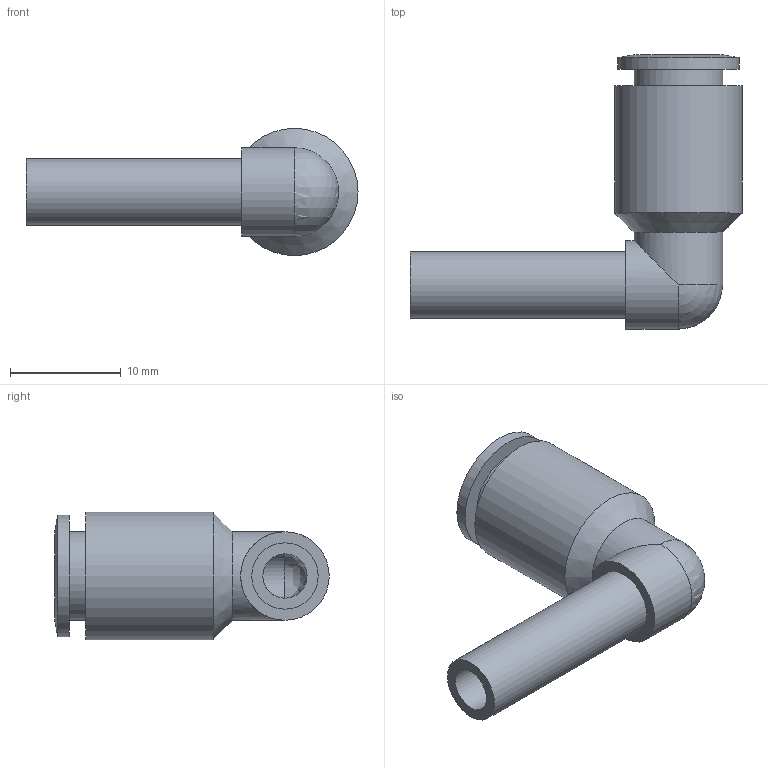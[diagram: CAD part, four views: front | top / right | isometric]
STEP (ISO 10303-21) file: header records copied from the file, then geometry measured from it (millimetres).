
FILE_DESCRIPTION((''),'2;1');
FILE_NAME('C:\Documents and Settings\rivolro1\Documenti\copia di Raccordi\PLASTICA\T04XXL0\T0406L0.stp','2007-10-30T15:45:45',('Rivolro1'),(''),'Autodesk Inventor 2008','Autodesk Inventor 2008','');
FILE_SCHEMA(('AUTOMOTIVE_DESIGN { 1 0 10303 214 1 1 1 1 }'));
Length unit declared in the file: millimetre
Products named in the file (1): T0406L0
Bounding box: 30 x 24.8 x 11.5 mm (x, y, z)
Volume: 1657.3 mm3; surface area: 2059.6 mm2
Topology: 1 solids, 1 shells, 20 faces, 41 edges, 23 vertices
Faces by surface type: cylinder 8, plane 6, bspline 3, cone 2, sphere 1
Full cylindrical faces by diameter (mm): 4 x1, 4.2 x1, 6 x1, 8 x3, 11 x1, 11.5 x1
Entity records: 559 total; most frequent: CARTESIAN_POINT 163, DIRECTION 80, ORIENTED_EDGE 48, AXIS2_PLACEMENT_3D 39, EDGE_LOOP 37, EDGE_CURVE 24, VERTEX_POINT 21, CIRCLE 20
